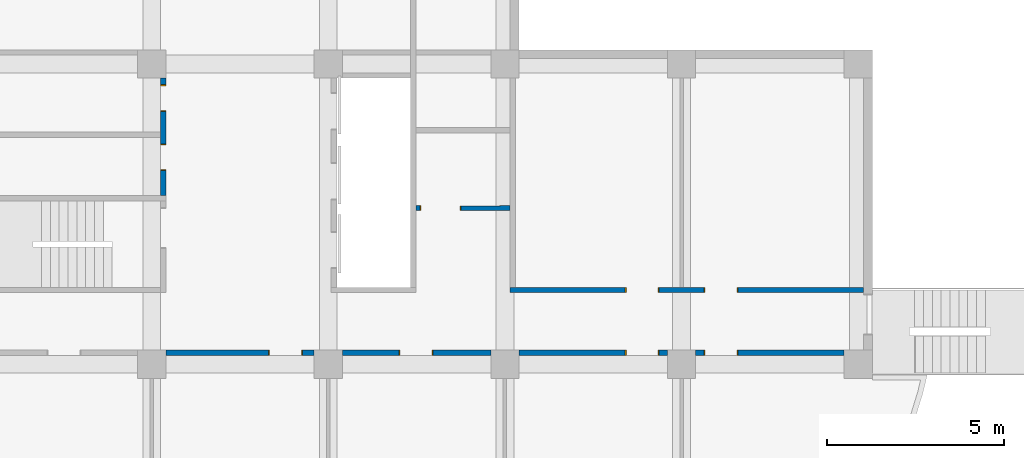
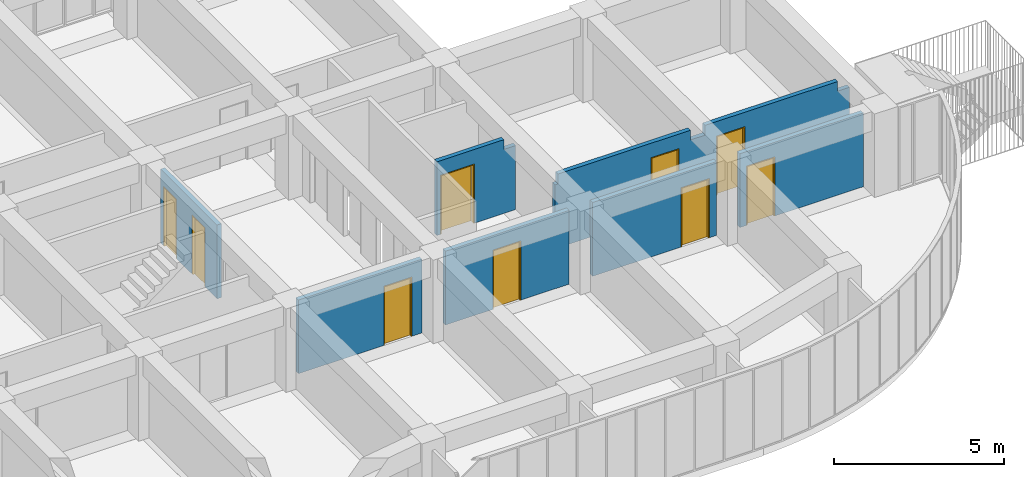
# One storey, part 5 of 6: 9 doors, 4 walls, 9 openings.
"""IFC2X3 building model written with IfcOpenShell, lengths in millimetres."""

from ifc_helpers import new_model, entity, si_unit, converted_unit, derived_unit, money_unit, direction, frame, origin_with_axes, place, context, subcontext, project, spatial, open_shell, faceted_brep, surface_model, source, transform, mapped, material, type_object, element, fill, save


model = new_model("IFC2X3")

# Units and contexts
model_context = context("Model", 3, precision=0.01, world=origin_with_axes(), true_north=direction((0.0, 1.0)))
body_context = subcontext(model_context, "Body", "Model", "MODEL_VIEW")
ifc_project = project(units=[si_unit("LENGTHUNIT", "METRE", prefix="MILLI"), si_unit("AREAUNIT", "SQUARE_METRE"), si_unit("VOLUMEUNIT", "CUBIC_METRE"), converted_unit("PLANEANGLEUNIT", "DEGREE", entity("IfcPlaneAngleMeasure", 0.0174532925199), si_unit("PLANEANGLEUNIT", "RADIAN"), dimensions=[0, 0, 0, 0, 0, 0, 0]), si_unit("SOLIDANGLEUNIT", "STERADIAN"), money_unit("JPY"), converted_unit("TIMEUNIT", "Year", entity("IfcTimeMeasure", 31556926.0), si_unit("TIMEUNIT", "SECOND"), dimensions=[0, 0, 1, 0, 0, 0, 0]), si_unit("MASSUNIT", "GRAM", prefix="KILO"), si_unit("THERMODYNAMICTEMPERATUREUNIT", "DEGREE_CELSIUS"), si_unit("LUMINOUSINTENSITYUNIT", "LUMEN"), si_unit("ENERGYUNIT", "JOULE", prefix="MEGA"), derived_unit("THERMALCONDUCTANCEUNIT", [(si_unit("POWERUNIT", "WATT"), 1), (si_unit("LENGTHUNIT", "METRE"), -1), (si_unit("THERMODYNAMICTEMPERATUREUNIT", "KELVIN"), -1)]), derived_unit("SPECIFICHEATCAPACITYUNIT", [(si_unit("ENERGYUNIT", "JOULE"), 1), (si_unit("MASSUNIT", "GRAM", prefix="KILO"), -1), (si_unit("THERMODYNAMICTEMPERATUREUNIT", "KELVIN"), -1)]), derived_unit("MASSDENSITYUNIT", [(si_unit("MASSUNIT", "GRAM", prefix="KILO"), 1), (si_unit("VOLUMEUNIT", "CUBIC_METRE"), -1)])], contexts=[model_context])

# Site, building, storey
site_placement = place(None, origin_with_axes())
site = spatial("IfcSite", under=ifc_project, at=site_placement, Name="サイト", CompositionType="ELEMENT")
building_placement = place(site_placement, origin_with_axes())
building = spatial("IfcBuilding", under=site, at=building_placement, Name="建築", CompositionType="ELEMENT")
storey_placement = place(building_placement, frame((0.0, 0.0, 6000.0), z_axis=(0.0, 0.0, 1.0), x_axis=(1.0, 0.0, 0.0)))
storey = spatial("IfcBuildingStorey", under=building, at=storey_placement, Name="3FL", CompositionType="ELEMENT", Elevation=6000.0)

# Wall, openings, doors
ifc_material = material(Name="コンクリート")
wall_type = type_object("IfcWallType", Name="コンクリート 150", PredefinedType="NOTDEFINED")
wall_1_placement = place(storey_placement, frame((25224.9999795, 2100.0, 0.0), z_axis=(0.0, 0.0, 1.0), x_axis=(1.0, 0.0, 0.0)))
wall_1 = element("IfcWall", 1, at=wall_1_placement, inside=storey, type_object=wall_type, material=ifc_material, Name="W7", context=body_context, shape_type="Brep", body=[
    faceted_brep([(3180.0000205, 75.0, 2130.0), (3180.0000205, 75.0, 0.0), (-75.0, 75.0, 0.0), (-75.0, 75.0, 2300.0), (25.0000205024, 75.0, 2300.0), (25.0000205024, 75.0, 2650.0), (4525.0000205, 75.0, 2650.0), (4525.0000205, 75.0, 2300.0), (5025.0000205, 75.0, 2300.0), (5025.0000205, 75.0, 2650.0), (9525.0000205, 75.0, 2650.0), (9525.0000205, 75.0, 2300.0), (9924.99998593, 75.0, 2300.0), (9924.99998593, 75.0, 0.0), (6370.0000205, 75.0, 0.0), (6370.0000205, 75.0, 2130.0), (5410.0000205, 75.0, 2130.0), (5410.0000205, 75.0, 0.0), (4140.0000205, 75.0, 0.0), (4140.0000205, 75.0, 2130.0), (3180.0000205, -75.0, 2130.0), (3180.0000205, -75.0, 0.0), (-75.0, -75.0, 0.0), (-75.0, -75.0, 2300.0), (25.0000205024, -75.0, 2300.0), (25.0000205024, -75.0, 2650.0), (4525.0000205, -75.0, 2650.0), (4525.0000205, -75.0, 2300.0), (5025.0000205, -75.0, 2300.0), (5025.0000205, -75.0, 2650.0), (9525.0000205, -75.0, 2650.0), (9525.0000205, -75.0, 2300.0), (9924.99998593, -75.0, 2300.0), (9924.99998593, -75.0, 0.0), (6370.0000205, -75.0, 0.0), (6370.0000205, -75.0, 2130.0), (5410.0000205, -75.0, 2130.0), (5410.0000205, -75.0, 0.0), (4140.0000205, -75.0, 0.0), (4140.0000205, -75.0, 2130.0)], [[[0, 1, 2, 3, 4, 5, 6, 7, 8, 9, 10, 11, 12, 13, 14, 15, 16, 17, 18, 19]], [[1, 0, 20, 21]], [[1, 21, 22, 2]], [[3, 2, 22, 23]], [[3, 23, 24, 4]], [[5, 4, 24, 25]], [[25, 26, 6, 5]], [[6, 26, 27, 7]], [[7, 27, 28, 8]], [[9, 8, 28, 29]], [[10, 9, 29, 30]], [[10, 30, 31, 11]], [[12, 11, 31, 32]], [[32, 33, 13, 12]], [[14, 13, 33, 34]], [[14, 34, 35, 15]], [[15, 35, 36, 16]], [[16, 36, 37, 17]], [[38, 18, 17, 37]], [[19, 18, 38, 39]], [[0, 19, 39, 20]], [[39, 38, 37, 36, 35, 34, 33, 32, 31, 30, 29, 28, 27, 26, 25, 24, 23, 22, 21, 20]]]),
])
opening_1_placement = place(wall_1_placement, frame((5890.0000205, 0.0, 0.0), z_axis=(0.0, 0.0, 1.0), x_axis=(1.0, 0.0, 0.0)))
opening_1 = element("IfcOpeningElement", 2, at=opening_1_placement, cuts=wall_1, Name="SD8", context=body_context, shape_type="Brep", body=[
    faceted_brep([(480.0, 160.0, 0.0), (480.0, 160.0, 2130.0), (480.0, -160.0, 2130.0), (480.0, -160.0, 0.0), (-480.0, 160.0, 0.0), (-480.0, 160.0, 2130.0), (-480.0, -160.0, 2130.0), (-480.0, -160.0, 0.0)], [[[0, 1, 2, 3]], [[0, 4, 5, 1]], [[1, 5, 6, 2]], [[3, 2, 6, 7]], [[4, 0, 3, 7]], [[5, 4, 7, 6]]]),
])
opening_2_placement = place(wall_1_placement, frame((3660.0000205, 0.0, 0.0), z_axis=(0.0, 0.0, 1.0), x_axis=(1.0, 0.0, 0.0)))
opening_2 = element("IfcOpeningElement", 3, at=opening_2_placement, cuts=wall_1, Name="SD9", context=body_context, shape_type="Brep", body=[
    faceted_brep([(-480.0, -160.0, 0.0), (-480.0, -160.0, 2130.0), (-480.0, 160.0, 2130.0), (-480.0, 160.0, 0.0), (480.0, -160.0, 0.0), (480.0, -160.0, 2130.0), (480.0, 160.0, 2130.0), (480.0, 160.0, 0.0)], [[[0, 1, 2, 3]], [[0, 4, 5, 1]], [[1, 5, 6, 2]], [[3, 2, 6, 7]], [[4, 0, 3, 7]], [[5, 4, 7, 6]]]),
])
door_style_1 = type_object("IfcDoorStyle", Name="片開き戸", ConstructionType="NOTDEFINED", OperationType="NOTDEFINED", ParameterTakesPrecedence=False, Sizeable=False)
shared_shape_1 = source(origin_with_axes(), body_context, "Body", "SurfaceModel", [
    surface_model("IfcShellBasedSurfaceModel", [(-450.0, -85.0, 0.0), (-450.0, -85.0, 2100.0), (450.0, -85.0, 2100.0), (450.0, -85.0, 0.0)], [open_shell([[[0, 1, 2, 3]]])]),
    surface_model("IfcShellBasedSurfaceModel", [(-480.0, -10.0, 0.0), (-480.0, -10.0, 2130.0), (480.0, -10.0, 2130.0), (480.0, -10.0, 0.0), (450.0, -10.0, 0.0), (450.0, -10.0, 2100.0), (-450.0, -10.0, 2100.0), (-450.0, -10.0, 0.0)], [open_shell([[[0, 1, 2, 3, 4, 5, 6, 7]]])]),
    surface_model("IfcShellBasedSurfaceModel", [(-480.0, -160.0, 0.0), (-480.0, -160.0, 2130.0), (480.0, -160.0, 2130.0), (480.0, -160.0, 0.0), (450.0, -160.0, 0.0), (450.0, -160.0, 2100.0), (-450.0, -160.0, 2100.0), (-450.0, -160.0, 0.0)], [open_shell([[[0, 1, 2, 3, 4, 5, 6, 7]]])]),
    surface_model("IfcShellBasedSurfaceModel", [(-450.0, -10.0, 0.0), (-450.0, -10.0, 2100.0), (-450.0, -160.0, 2100.0), (-450.0, -160.0, 0.0), (450.0, -10.0, 2100.0), (450.0, -160.0, 2100.0), (-480.0, -10.0, 0.0), (-480.0, -160.0, 0.0), (450.0, -10.0, 0.0), (450.0, -160.0, 0.0), (-480.0, -10.0, 2130.0), (-480.0, -160.0, 2130.0), (480.0, -10.0, 0.0), (480.0, -160.0, 0.0), (480.0, -10.0, 2130.0), (480.0, -160.0, 2130.0)], [open_shell([[[0, 1, 2, 3]], [[1, 4, 5, 2]], [[6, 0, 3, 7]], [[4, 8, 9, 5]], [[10, 6, 7, 11]], [[8, 12, 13, 9]], [[14, 10, 11, 15]], [[12, 14, 15, 13]]])]),
])
door_1_placement = place(opening_2_placement, frame((-450.0, 0.0, 0.0), z_axis=(0.0, 0.0, 1.0), x_axis=(1.0, 0.0, 0.0)))
door_1 = element("IfcDoor", 4, at=door_1_placement, inside=storey, type_object=door_style_1, Name="SD9", OverallHeight=2165.0, OverallWidth=1030.0, context=body_context, shape_type="MappedRepresentation", body=[
    mapped(shared_shape_1, transform((450.0, 85.0, 0.0))),
])
fill(opening_2, door_1)
shared_shape_2 = source(origin_with_axes(), body_context, "Body", "SurfaceModel", [
    surface_model("IfcShellBasedSurfaceModel", [(450.0, -85.0, 0.0), (-450.0, -85.0, 0.0), (-450.0, -85.0, 2100.0), (450.0, -85.0, 2100.0)], [open_shell([[[0, 1, 2, 3]]])]),
    surface_model("IfcShellBasedSurfaceModel", [(480.0, -10.0, 0.0), (450.0, -10.0, 0.0), (450.0, -10.0, 2100.0), (-450.0, -10.0, 2100.0), (-450.0, -10.0, 0.0), (-480.0, -10.0, 0.0), (-480.0, -10.0, 2130.0), (480.0, -10.0, 2130.0)], [open_shell([[[0, 1, 2, 3, 4, 5, 6, 7]]])]),
    surface_model("IfcShellBasedSurfaceModel", [(480.0, -160.0, 0.0), (450.0, -160.0, 0.0), (450.0, -160.0, 2100.0), (-450.0, -160.0, 2100.0), (-450.0, -160.0, 0.0), (-480.0, -160.0, 0.0), (-480.0, -160.0, 2130.0), (480.0, -160.0, 2130.0)], [open_shell([[[0, 1, 2, 3, 4, 5, 6, 7]]])]),
    surface_model("IfcShellBasedSurfaceModel", [(450.0, -10.0, 0.0), (450.0, -160.0, 0.0), (450.0, -160.0, 2100.0), (450.0, -10.0, 2100.0), (480.0, -10.0, 0.0), (480.0, -160.0, 0.0), (-450.0, -160.0, 2100.0), (-450.0, -10.0, 2100.0), (480.0, -10.0, 2130.0), (480.0, -160.0, 2130.0), (-450.0, -160.0, 0.0), (-450.0, -10.0, 0.0), (-480.0, -10.0, 2130.0), (-480.0, -160.0, 2130.0), (-480.0, -160.0, 0.0), (-480.0, -10.0, 0.0)], [open_shell([[[0, 1, 2, 3]], [[4, 5, 1, 0]], [[3, 2, 6, 7]], [[8, 9, 5, 4]], [[7, 6, 10, 11]], [[12, 13, 9, 8]], [[11, 10, 14, 15]], [[15, 14, 13, 12]]])]),
])
door_2_placement = place(opening_1_placement, frame((-450.0, 0.0, 0.0), z_axis=(0.0, 0.0, 1.0), x_axis=(1.0, 0.0, 0.0)))
door_2 = element("IfcDoor", 5, at=door_2_placement, inside=storey, type_object=door_style_1, Name="SD8", OverallHeight=2165.0, OverallWidth=1030.0, context=body_context, shape_type="MappedRepresentation", body=[
    mapped(shared_shape_2, transform((450.0, 85.0, 0.0))),
])
fill(opening_1, door_2)

wall_2_placement = place(storey_placement, frame((15000.0, 325.000021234, 0.0), z_axis=(0.0, 0.0, 1.0), x_axis=(1.0, 0.0, 0.0)))
wall_2 = element("IfcWall", 6, at=wall_2_placement, inside=storey, type_object=wall_type, material=ifc_material, Name="W5", context=body_context, shape_type="Brep", body=[
    faceted_brep([(3305.0, 74.9999787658, 2130.0), (3305.0, 74.9999787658, 0.0), (400.0, 74.9999787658, 0.0), (400.0, 74.9999787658, 2650.0), (4600.0, 74.9999787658, 2650.0), (4600.0, 74.9999787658, 0.0), (4265.0, 74.9999787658, 0.0), (4265.0, 74.9999787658, 2130.0), (3305.0, -75.0000212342, 2130.0), (3305.0, -75.0, 0.0), (400.0, -75.0, 0.0), (400.0, -75.0000212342, 2650.0), (4600.0, -75.0000212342, 2650.0), (4600.0, -75.0, 0.0), (4265.0, -75.0, 0.0), (4265.0, -75.0000212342, 2130.0)], [[[0, 1, 2, 3, 4, 5, 6, 7]], [[1, 0, 8, 9]], [[1, 9, 10, 2]], [[11, 3, 2, 10]], [[3, 11, 12, 4]], [[5, 4, 12, 13]], [[14, 6, 5, 13]], [[7, 6, 14, 15]], [[0, 7, 15, 8]], [[15, 14, 13, 12, 11, 10, 9, 8]]]),
    faceted_brep([(15635.0, 74.9999787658, 2130.0), (15635.0, 74.9999787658, 0.0), (15400.0, 74.9999787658, 0.0), (15400.0, 74.9999787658, 2650.0), (19600.0, 74.9999787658, 2650.0), (19600.0, 74.9999787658, 0.0), (16595.0, 74.9999787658, 0.0), (16595.0, 74.9999787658, 2130.0), (15635.0, -75.0000212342, 2130.0), (15635.0, -75.0, 0.0), (15400.0, -75.0, 0.0), (15400.0, -75.0000212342, 2650.0), (19600.0, -75.0000212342, 2650.0), (19600.0, -75.0, 0.0), (16595.0, -75.0, 0.0), (16595.0, -75.0000212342, 2130.0)], [[[0, 1, 2, 3, 4, 5, 6, 7]], [[1, 0, 8, 9]], [[1, 9, 10, 2]], [[11, 3, 2, 10]], [[3, 11, 12, 4]], [[5, 4, 12, 13]], [[14, 6, 5, 13]], [[7, 6, 14, 15]], [[0, 7, 15, 8]], [[15, 14, 13, 12, 11, 10, 9, 8]]]),
    faceted_brep([(13405.0, 74.9999787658, 2130.0), (13405.0, 74.9999787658, 0.0), (10400.0, 74.9999787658, 0.0), (10400.0, 74.9999787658, 2650.0), (14600.0, 74.9999787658, 2650.0), (14600.0, 74.9999787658, 0.0), (14365.0, 74.9999787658, 0.0), (14365.0, 74.9999787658, 2130.0), (13405.0, -75.0000212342, 2130.0), (13405.0, -75.0, 0.0), (10400.0, -75.0, 0.0), (10400.0, -75.0000212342, 2650.0), (14600.0, -75.0000212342, 2650.0), (14600.0, -75.0, 0.0), (14365.0, -75.0, 0.0), (14365.0, -75.0000212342, 2130.0)], [[[0, 1, 2, 3, 4, 5, 6, 7]], [[1, 0, 8, 9]], [[1, 9, 10, 2]], [[11, 3, 2, 10]], [[3, 11, 12, 4]], [[5, 4, 12, 13]], [[14, 6, 5, 13]], [[7, 6, 14, 15]], [[0, 7, 15, 8]], [[15, 14, 13, 12, 11, 10, 9, 8]]]),
    faceted_brep([(7005.0, 74.9999787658, 2130.0), (7005.0, 74.9999787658, 0.0), (5400.0, 74.9999787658, 0.0), (5400.0, 74.9999787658, 2650.0), (9600.0, 74.9999787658, 2650.0), (9600.0, 74.9999787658, 0.0), (7965.0, 74.9999787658, 0.0), (7965.0, 74.9999787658, 2130.0), (7005.0, -75.0000212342, 2130.0), (7005.0, -75.0, 0.0), (5400.0, -75.0, 0.0), (5400.0, -75.0000212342, 2650.0), (9600.0, -75.0000212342, 2650.0), (9600.0, -75.0, 0.0), (7965.0, -75.0, 0.0), (7965.0, -75.0000212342, 2130.0)], [[[0, 1, 2, 3, 4, 5, 6, 7]], [[1, 0, 8, 9]], [[1, 9, 10, 2]], [[11, 3, 2, 10]], [[3, 11, 12, 4]], [[5, 4, 12, 13]], [[14, 6, 5, 13]], [[7, 6, 14, 15]], [[0, 7, 15, 8]], [[15, 14, 13, 12, 11, 10, 9, 8]]]),
])
opening_3_placement = place(wall_2_placement, frame((3785.0, 0.0, 0.0), z_axis=(0.0, 0.0, 1.0), x_axis=(1.0, 0.0, 0.0)))
opening_3 = element("IfcOpeningElement", 7, at=opening_3_placement, cuts=wall_2, Name="SD5", context=body_context, shape_type="Brep", body=[
    faceted_brep([(-480.0, -160.0, 0.0), (-480.0, -160.0, 2130.0), (-480.0, 160.0, 2130.0), (-480.0, 160.0, 0.0), (480.0, -160.0, 0.0), (480.0, -160.0, 2130.0), (480.0, 160.0, 2130.0), (480.0, 160.0, 0.0)], [[[0, 1, 2, 3]], [[0, 4, 5, 1]], [[1, 5, 6, 2]], [[3, 2, 6, 7]], [[4, 0, 3, 7]], [[5, 4, 7, 6]]]),
])
opening_4_placement = place(wall_2_placement, frame((7485.0, 0.0, 0.0), z_axis=(0.0, 0.0, 1.0), x_axis=(1.0, 0.0, 0.0)))
opening_4 = element("IfcOpeningElement", 8, at=opening_4_placement, cuts=wall_2, Name="SD6", context=body_context, shape_type="Brep", body=[
    faceted_brep([(-480.0, -160.0, 0.0), (-480.0, -160.0, 2130.0), (-480.0, 160.0, 2130.0), (-480.0, 160.0, 0.0), (480.0, -160.0, 0.0), (480.0, -160.0, 2130.0), (480.0, 160.0, 2130.0), (480.0, 160.0, 0.0)], [[[0, 1, 2, 3]], [[0, 4, 5, 1]], [[1, 5, 6, 2]], [[3, 2, 6, 7]], [[4, 0, 3, 7]], [[5, 4, 7, 6]]]),
])
opening_5_placement = place(wall_2_placement, frame((13885.0, 0.0, 0.0), z_axis=(0.0, 0.0, 1.0), x_axis=(1.0, 0.0, 0.0)))
opening_5 = element("IfcOpeningElement", 9, at=opening_5_placement, cuts=wall_2, Name="SD6", context=body_context, shape_type="Brep", body=[
    faceted_brep([(-480.0, -160.0, 0.0), (-480.0, -160.0, 2130.0), (-480.0, 160.0, 2130.0), (-480.0, 160.0, 0.0), (480.0, -160.0, 0.0), (480.0, -160.0, 2130.0), (480.0, 160.0, 2130.0), (480.0, 160.0, 0.0)], [[[0, 1, 2, 3]], [[0, 4, 5, 1]], [[1, 5, 6, 2]], [[3, 2, 6, 7]], [[4, 0, 3, 7]], [[5, 4, 7, 6]]]),
])
opening_6_placement = place(wall_2_placement, frame((16115.0, 0.0, 0.0), z_axis=(0.0, 0.0, 1.0), x_axis=(1.0, 0.0, 0.0)))
opening_6 = element("IfcOpeningElement", 10, at=opening_6_placement, cuts=wall_2, Name="SD7", context=body_context, shape_type="Brep", body=[
    faceted_brep([(480.0, 160.0, 0.0), (480.0, 160.0, 2130.0), (480.0, -160.0, 2130.0), (480.0, -160.0, 0.0), (-480.0, 160.0, 0.0), (-480.0, 160.0, 2130.0), (-480.0, -160.0, 2130.0), (-480.0, -160.0, 0.0)], [[[0, 1, 2, 3]], [[0, 4, 5, 1]], [[1, 5, 6, 2]], [[3, 2, 6, 7]], [[4, 0, 3, 7]], [[5, 4, 7, 6]]]),
])
door_3_placement = place(opening_6_placement, frame((450.0, 0.0, 0.0), z_axis=(0.0, 0.0, 1.0), x_axis=(-1.0, 0.0, 0.0)))
door_3 = element("IfcDoor", 11, at=door_3_placement, inside=storey, type_object=door_style_1, Name="SD7", OverallHeight=2165.0, OverallWidth=1030.0, context=body_context, shape_type="MappedRepresentation", body=[
    mapped(shared_shape_1, transform((450.0, 85.0, 0.0))),
])
fill(opening_6, door_3)
door_4_placement = place(opening_3_placement, frame((450.0, 0.0, 0.0), z_axis=(0.0, 0.0, 1.0), x_axis=(-1.0, 0.0, 0.0)))
door_4 = element("IfcDoor", 12, at=door_4_placement, inside=storey, type_object=door_style_1, Name="SD5", OverallHeight=2165.0, OverallWidth=1030.0, context=body_context, shape_type="MappedRepresentation", body=[
    mapped(shared_shape_2, transform((450.0, 85.0, 0.0))),
])
fill(opening_3, door_4)
door_5_placement = place(opening_5_placement, frame((450.0, 0.0, 0.0), z_axis=(0.0, 0.0, 1.0), x_axis=(-1.0, 0.0, 0.0)))
door_5 = element("IfcDoor", 13, at=door_5_placement, inside=storey, type_object=door_style_1, Name="SD6", OverallHeight=2165.0, OverallWidth=1030.0, context=body_context, shape_type="MappedRepresentation", body=[
    mapped(shared_shape_2, transform((450.0, 85.0, 0.0))),
])
fill(opening_5, door_5)
shared_shape_3 = source(origin_with_axes(), body_context, "Body", "SurfaceModel", [
    surface_model("IfcShellBasedSurfaceModel", [(450.0, 85.0, 0.0), (-450.0, 85.0, 0.0), (-450.0, 85.0, 2100.0), (450.0, 85.0, 2100.0)], [open_shell([[[0, 1, 2, 3]]])]),
    surface_model("IfcShellBasedSurfaceModel", [(480.0, 160.0, 0.0), (450.0, 160.0, 0.0), (450.0, 160.0, 2100.0), (-450.0, 160.0, 2100.0), (-450.0, 160.0, 0.0), (-480.0, 160.0, 0.0), (-480.0, 160.0, 2130.0), (480.0, 160.0, 2130.0)], [open_shell([[[0, 1, 2, 3, 4, 5, 6, 7]]])]),
    surface_model("IfcShellBasedSurfaceModel", [(480.0, 10.0, 0.0), (450.0, 10.0, 0.0), (450.0, 10.0, 2100.0), (-450.0, 10.0, 2100.0), (-450.0, 10.0, 0.0), (-480.0, 10.0, 0.0), (-480.0, 10.0, 2130.0), (480.0, 10.0, 2130.0)], [open_shell([[[0, 1, 2, 3, 4, 5, 6, 7]]])]),
    surface_model("IfcShellBasedSurfaceModel", [(450.0, 160.0, 0.0), (450.0, 10.0, 0.0), (450.0, 10.0, 2100.0), (450.0, 160.0, 2100.0), (480.0, 160.0, 0.0), (480.0, 10.0, 0.0), (-450.0, 10.0, 2100.0), (-450.0, 160.0, 2100.0), (480.0, 160.0, 2130.0), (480.0, 10.0, 2130.0), (-450.0, 10.0, 0.0), (-450.0, 160.0, 0.0), (-480.0, 160.0, 2130.0), (-480.0, 10.0, 2130.0), (-480.0, 10.0, 0.0), (-480.0, 160.0, 0.0)], [open_shell([[[0, 1, 2, 3]], [[4, 5, 1, 0]], [[3, 2, 6, 7]], [[8, 9, 5, 4]], [[7, 6, 10, 11]], [[12, 13, 9, 8]], [[11, 10, 14, 15]], [[15, 14, 13, 12]]])]),
])
door_6_placement = place(opening_4_placement, frame((450.0, 0.0, 0.0), z_axis=(0.0, 0.0, 1.0), x_axis=(-1.0, 0.0, 0.0)))
door_6 = element("IfcDoor", 14, at=door_6_placement, inside=storey, type_object=door_style_1, Name="SD6", OverallHeight=2165.0, OverallWidth=1030.0, context=body_context, shape_type="MappedRepresentation", body=[
    mapped(shared_shape_3, transform((450.0, -85.0, 0.0))),
])
fill(opening_4, door_6)

wall_3_placement = place(storey_placement, frame((15324.9999955, 4700.0, 0.0), z_axis=(0.0, 0.0, 1.0), x_axis=(0.0, 1.0, 0.0)))
wall_3 = element("IfcWall", 15, at=wall_3_placement, inside=storey, type_object=wall_type, material=ifc_material, Name="W4", context=body_context, shape_type="Brep", body=[
    faceted_brep([(2455.0, -75.0000031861, 0.0), (2455.0, -75.0000009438, 2130.0), (3215.0, -75.0000009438, 2130.0), (3215.0, -75.0000042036, 0.0), (3400.0, -75.0000044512, 0.0), (3400.0, -75.0000044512, 2650.0), (75.0, -75.0, 2650.0), (75.0, -75.0, 0.0), (780.0, -75.0000009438, 0.0), (780.0, -75.0, 2130.0), (1540.0, -75.0, 2130.0), (1540.0, -75.0000019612, 0.0), (2455.0, 75.0, 0.0), (2455.0, 75.0, 2130.0), (3215.0, 75.0, 2130.0), (3215.0, 75.0, 0.0), (3400.0, 75.0, 0.0), (3400.0, 74.9999957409, 2650.0), (75.0, 75.0, 2650.0), (75.0, 75.0, 0.0), (780.0, 75.0, 0.0), (780.0, 75.0, 2130.0), (1540.0, 75.0, 2130.0), (1540.0, 75.0, 0.0)], [[[0, 1, 2, 3, 4, 5, 6, 7, 8, 9, 10, 11]], [[1, 0, 12, 13]], [[2, 1, 13, 14]], [[3, 2, 14, 15]], [[3, 15, 16, 4]], [[5, 4, 16, 17]], [[17, 18, 6, 5]], [[7, 6, 18, 19]], [[8, 7, 19, 20]], [[8, 20, 21, 9]], [[9, 21, 22, 10]], [[10, 22, 23, 11]], [[12, 0, 11, 23]], [[13, 12, 23, 22, 21, 20, 19, 18, 17, 16, 15, 14]]]),
])
opening_7_placement = place(wall_3_placement, frame((1160.0, 0.0, 0.0), z_axis=(0.0, 0.0, 1.0), x_axis=(1.0, 0.0, 0.0)))
opening_7 = element("IfcOpeningElement", 16, at=opening_7_placement, cuts=wall_3, Name="SD3", context=body_context, shape_type="Brep", body=[
    faceted_brep([(-380.0, -160.0, 0.0), (-380.0, -160.0, 2130.0), (-380.0, 160.0, 2130.0), (-380.0, 160.0, 0.0), (380.0, -160.0, 0.0), (380.0, -160.0, 2130.0), (380.0, 160.0, 2130.0), (380.0, 160.0, 0.0)], [[[0, 1, 2, 3]], [[0, 4, 5, 1]], [[1, 5, 6, 2]], [[3, 2, 6, 7]], [[4, 0, 3, 7]], [[5, 4, 7, 6]]]),
])
opening_8_placement = place(wall_3_placement, frame((2835.0, 0.0, 0.0), z_axis=(0.0, 0.0, 1.0), x_axis=(1.0, 0.0, 0.0)))
opening_8 = element("IfcOpeningElement", 17, at=opening_8_placement, cuts=wall_3, Name="SD3", context=body_context, shape_type="Brep", body=[
    faceted_brep([(-380.0, -160.0, 0.0), (-380.0, -160.0, 2130.0), (-380.0, 160.0, 2130.0), (-380.0, 160.0, 0.0), (380.0, -160.0, 0.0), (380.0, -160.0, 2130.0), (380.0, 160.0, 2130.0), (380.0, 160.0, 0.0)], [[[0, 1, 2, 3]], [[0, 4, 5, 1]], [[1, 5, 6, 2]], [[3, 2, 6, 7]], [[4, 0, 3, 7]], [[5, 4, 7, 6]]]),
])
shared_shape_4 = source(origin_with_axes(), body_context, "Body", "SurfaceModel", [
    surface_model("IfcShellBasedSurfaceModel", [(-350.0, -85.0, 0.0), (-350.0, -85.0, 2100.0), (350.0, -85.0, 2100.0), (350.0, -85.0, 0.0)], [open_shell([[[0, 1, 2, 3]]])]),
    surface_model("IfcShellBasedSurfaceModel", [(-380.0, -10.0, 0.0), (-380.0, -10.0, 2130.0), (380.0, -10.0, 2130.0), (380.0, -10.0, 0.0), (350.0, -10.0, 0.0), (350.0, -10.0, 2100.0), (-350.0, -10.0, 2100.0), (-350.0, -10.0, 0.0)], [open_shell([[[0, 1, 2, 3, 4, 5, 6, 7]]])]),
    surface_model("IfcShellBasedSurfaceModel", [(-380.0, -160.0, 0.0), (-380.0, -160.0, 2130.0), (380.0, -160.0, 2130.0), (380.0, -160.0, 0.0), (350.0, -160.0, 0.0), (350.0, -160.0, 2100.0), (-350.0, -160.0, 2100.0), (-350.0, -160.0, 0.0)], [open_shell([[[0, 1, 2, 3, 4, 5, 6, 7]]])]),
    surface_model("IfcShellBasedSurfaceModel", [(-350.0, -10.0, 0.0), (-350.0, -10.0, 2100.0), (-350.0, -160.0, 2100.0), (-350.0, -160.0, 0.0), (350.0, -10.0, 2100.0), (350.0, -160.0, 2100.0), (-380.0, -10.0, 0.0), (-380.0, -160.0, 0.0), (350.0, -10.0, 0.0), (350.0, -160.0, 0.0), (-380.0, -10.0, 2130.0), (-380.0, -160.0, 2130.0), (380.0, -10.0, 0.0), (380.0, -160.0, 0.0), (380.0, -10.0, 2130.0), (380.0, -160.0, 2130.0)], [open_shell([[[0, 1, 2, 3]], [[1, 4, 5, 2]], [[6, 0, 3, 7]], [[4, 8, 9, 5]], [[10, 6, 7, 11]], [[8, 12, 13, 9]], [[14, 10, 11, 15]], [[12, 14, 15, 13]]])]),
])
door_7_placement = place(opening_7_placement, frame((-350.0, 0.0, 0.0), z_axis=(0.0, 0.0, 1.0), x_axis=(1.0, 0.0, 0.0)))
door_7 = element("IfcDoor", 18, at=door_7_placement, inside=storey, type_object=door_style_1, Name="SD3", OverallHeight=2165.0, OverallWidth=830.0, context=body_context, shape_type="MappedRepresentation", body=[
    mapped(shared_shape_4, transform((350.0, 85.0, 0.0))),
])
fill(opening_7, door_7)
door_8_placement = place(opening_8_placement, frame((-350.0, 0.0, 0.0), z_axis=(0.0, 0.0, 1.0), x_axis=(1.0, 0.0, 0.0)))
door_8 = element("IfcDoor", 19, at=door_8_placement, inside=storey, type_object=door_style_1, Name="SD3", OverallHeight=2165.0, OverallWidth=830.0, context=body_context, shape_type="MappedRepresentation", body=[
    mapped(shared_shape_4, transform((350.0, 85.0, 0.0))),
])
fill(opening_8, door_8)

# Wall, opening, door
wall_4_placement = place(storey_placement, frame((22400.0, 4425.000045, 0.0), z_axis=(0.0, 0.0, 1.0), x_axis=(1.0, 0.0, 0.0)))
wall_4 = element("IfcWall", 20, at=wall_4_placement, inside=storey, type_object=wall_type, material=ifc_material, Name="W8", context=body_context, shape_type="Brep", body=[
    faceted_brep([(2480.0, 75.0, 2130.0), (1355.0, 75.0, 2130.0), (195.0, 75.0, 2130.0), (195.0, 75.0, 0.0), (75.0, 75.0, 0.0), (75.0, 75.0, 2650.0), (2350.0, 75.0, 2650.0), (2350.0, 75.0, 2300.0), (2749.9999795, 75.0, 2300.0), (2749.9999795, 75.0, 0.0), (2480.0, 75.0, 0.0), (2480.0, 55.0, 2130.0), (1355.0, 55.0, 2130.0), (1355.0, -75.0, 2130.0), (195.0, -75.0, 2130.0), (195.0, -75.0, 0.0), (75.0, -75.0, 0.0), (75.0, -75.0, 2650.0), (2350.0, -75.0, 2650.0), (2350.0, -75.0, 2300.0), (2749.9999795, -75.0, 2300.0), (2749.9999795, -75.0, 0.0), (2480.0, 55.0, 0.0), (1355.0, -75.0, 0.0), (1355.0, 55.0, 0.0)], [[[0, 1, 2, 3, 4, 5, 6, 7, 8, 9, 10]], [[1, 0, 11, 12]], [[1, 12, 13, 14, 2]], [[2, 14, 15, 3]], [[15, 16, 4, 3]], [[17, 5, 4, 16]], [[6, 5, 17, 18]], [[6, 18, 19, 7]], [[8, 7, 19, 20]], [[20, 21, 9, 8]], [[22, 10, 9, 21, 23, 24]], [[0, 10, 22, 11]], [[22, 24, 12, 11]], [[12, 24, 23, 13]], [[16, 15, 14, 13, 23, 21, 20, 19, 18, 17]]]),
])
opening_9_placement = place(wall_4_placement, frame((775.0, 0.0, 0.0), z_axis=(0.0, 0.0, 1.0), x_axis=(1.0, 0.0, 0.0)))
opening_9 = element("IfcOpeningElement", 21, at=opening_9_placement, cuts=wall_4, Name="SD4", context=body_context, shape_type="Brep", body=[
    faceted_brep([(1705.0, 225.0, 0.0), (1705.0, 225.0, 2130.0), (1705.0, 55.0, 2130.0), (1705.0, 55.0, 0.0), (-580.0, 225.0, 0.0), (-580.0, 225.0, 2130.0), (-580.0, 55.0, 2130.0), (-580.0, 55.0, 0.0)], [[[0, 1, 2, 3]], [[0, 4, 5, 1]], [[1, 5, 6, 2]], [[3, 2, 6, 7]], [[4, 0, 3, 7]], [[5, 4, 7, 6]]]),
    faceted_brep([(-580.0, -160.0, 0.0), (-580.0, -160.0, 2130.0), (-580.0, 160.0, 2130.0), (-580.0, 160.0, 0.0), (580.0, -160.0, 0.0), (580.0, -160.0, 2130.0), (580.0, 160.0, 2130.0), (580.0, 160.0, 0.0)], [[[0, 1, 2, 3]], [[0, 4, 5, 1]], [[1, 5, 6, 2]], [[3, 2, 6, 7]], [[4, 0, 3, 7]], [[5, 4, 7, 6]]]),
])
door_style_2 = type_object("IfcDoorStyle", Name="片引き戸", ConstructionType="NOTDEFINED", OperationType="NOTDEFINED", ParameterTakesPrecedence=False, Sizeable=False)
shared_shape_5 = source(origin_with_axes(), body_context, "Body", "SurfaceModel", [
    surface_model("IfcShellBasedSurfaceModel", [(-550.0, -0.5, 3.0), (-550.0, -0.5, 2103.0), (550.0, -0.5, 2103.0), (550.0, -0.5, 3.0)], [open_shell([[[0, 1, 2, 3]]])]),
    surface_model("IfcShellBasedSurfaceModel", [(-580.0, -10.0, 0.0), (-580.0, -10.0, 2130.0), (1705.0, -10.0, 2130.0), (1705.0, -10.0, 0.0), (1675.0, -10.0, 0.0), (1675.0, -10.0, 2100.0), (-550.0, -10.0, 2100.0), (-550.0, -10.0, 0.0)], [open_shell([[[0, 1, 2, 3, 4, 5, 6, 7]]])]),
    surface_model("IfcShellBasedSurfaceModel", [(580.0, -30.0, 2130.0), (1705.0, -30.0, 2130.0), (1705.0, -30.0, 0.0), (1675.0, -30.0, 0.0), (1675.0, -30.0, 2100.0), (580.0, -30.0, 2100.0)], [open_shell([[[0, 1, 2, 3, 4, 5]]])]),
    surface_model("IfcShellBasedSurfaceModel", [(-550.0, -10.0, 0.0), (-550.0, -10.0, 2100.0), (-550.0, -30.0, 2100.0), (-550.0, -30.0, 0.0), (1675.0, -10.0, 2100.0), (1675.0, -30.0, 2100.0), (-580.0, -10.0, 0.0), (-580.0, -30.0, 0.0), (1675.0, -10.0, 0.0), (1675.0, -30.0, 0.0), (-580.0, -10.0, 2130.0), (-580.0, -30.0, 2130.0), (1705.0, -10.0, 0.0), (1705.0, -30.0, 0.0), (1705.0, -10.0, 2130.0), (1705.0, -30.0, 2130.0)], [open_shell([[[0, 1, 2, 3]], [[1, 4, 5, 2]], [[6, 0, 3, 7]], [[4, 8, 9, 5]], [[10, 6, 7, 11]], [[8, 12, 13, 9]], [[14, 10, 11, 15]], [[12, 14, 15, 13]]])]),
    surface_model("IfcShellBasedSurfaceModel", [(-580.0, -30.0, 0.0), (-580.0, -30.0, 2130.0), (580.0, -30.0, 2130.0), (580.0, -30.0, 0.0), (550.0, -30.0, 0.0), (550.0, -30.0, 2100.0), (-550.0, -30.0, 2100.0), (-550.0, -30.0, 0.0)], [open_shell([[[0, 1, 2, 3, 4, 5, 6, 7]]])]),
    surface_model("IfcShellBasedSurfaceModel", [(-580.0, -160.0, 0.0), (-580.0, -160.0, 2130.0), (580.0, -160.0, 2130.0), (580.0, -160.0, 0.0), (550.0, -160.0, 0.0), (550.0, -160.0, 2100.0), (-550.0, -160.0, 2100.0), (-550.0, -160.0, 0.0)], [open_shell([[[0, 1, 2, 3, 4, 5, 6, 7]]])]),
    surface_model("IfcShellBasedSurfaceModel", [(-550.0, -30.0, 0.0), (-550.0, -30.0, 2100.0), (-550.0, -160.0, 2100.0), (-550.0, -160.0, 0.0), (550.0, -30.0, 2100.0), (550.0, -160.0, 2100.0), (-580.0, -30.0, 0.0), (-580.0, -160.0, 0.0), (550.0, -30.0, 0.0), (550.0, -160.0, 0.0), (-580.0, -30.0, 2130.0), (-580.0, -160.0, 2130.0), (580.0, -30.0, 0.0), (580.0, -160.0, 0.0), (580.0, -30.0, 2130.0), (580.0, -160.0, 2130.0)], [open_shell([[[0, 1, 2, 3]], [[1, 4, 5, 2]], [[6, 0, 3, 7]], [[4, 8, 9, 5]], [[10, 6, 7, 11]], [[8, 12, 13, 9]], [[14, 10, 11, 15]], [[12, 14, 15, 13]]])]),
])
door_9_placement = place(opening_9_placement, frame((-550.0, 0.0, 0.0), z_axis=(0.0, 0.0, 1.0), x_axis=(1.0, 0.0, 0.0)))
door_9 = element("IfcDoor", 22, at=door_9_placement, inside=storey, type_object=door_style_2, Name="SD4", OverallHeight=2150.0, OverallWidth=1200.0, context=body_context, shape_type="MappedRepresentation", body=[
    mapped(shared_shape_5, transform((550.0, 85.0, 0.0))),
])
fill(opening_9, door_9)

save(model, "model.ifc")
